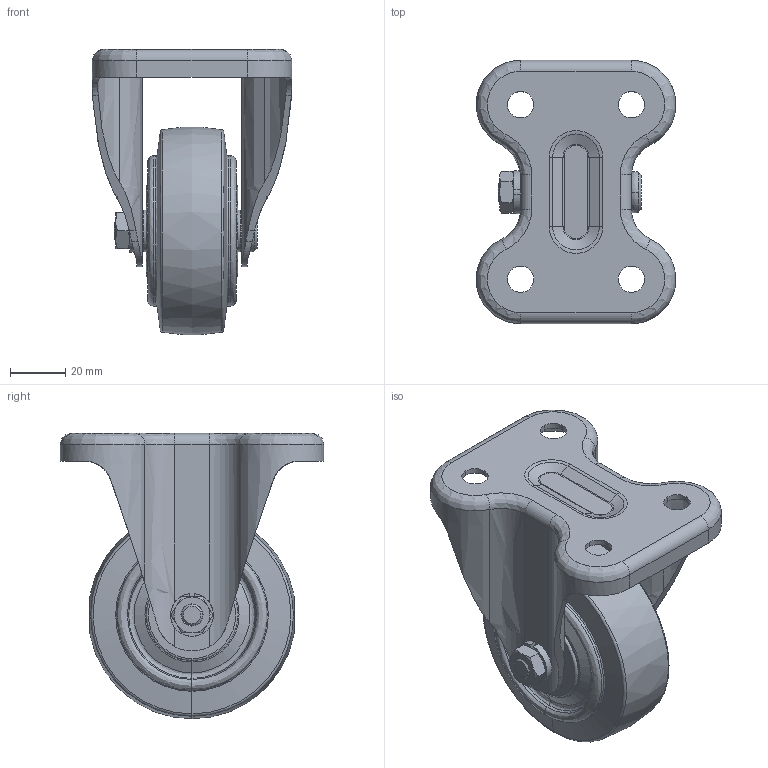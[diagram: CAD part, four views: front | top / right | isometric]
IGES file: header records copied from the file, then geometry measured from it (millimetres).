
Global section: file name: No Iges File Name specified; native system: AutoDesk Inventor R11.0; preprocessor: AutoDesk Inventor Iges Exporter R11.0; author: No Author specified; organization: No Organization specified; date: 20130719.173159; units: millimetre
Bounding box: 72 x 95 x 102.89 mm (x, y, z)
Volume: 45803.4 mm3; surface area: 69732.6 mm2
Topology: 1 solids, 1 shells, 347 faces, 2036 edges, 2017 vertices
Faces by surface type: revolution 248, plane 87, torus 6, cone 4, bspline 2
